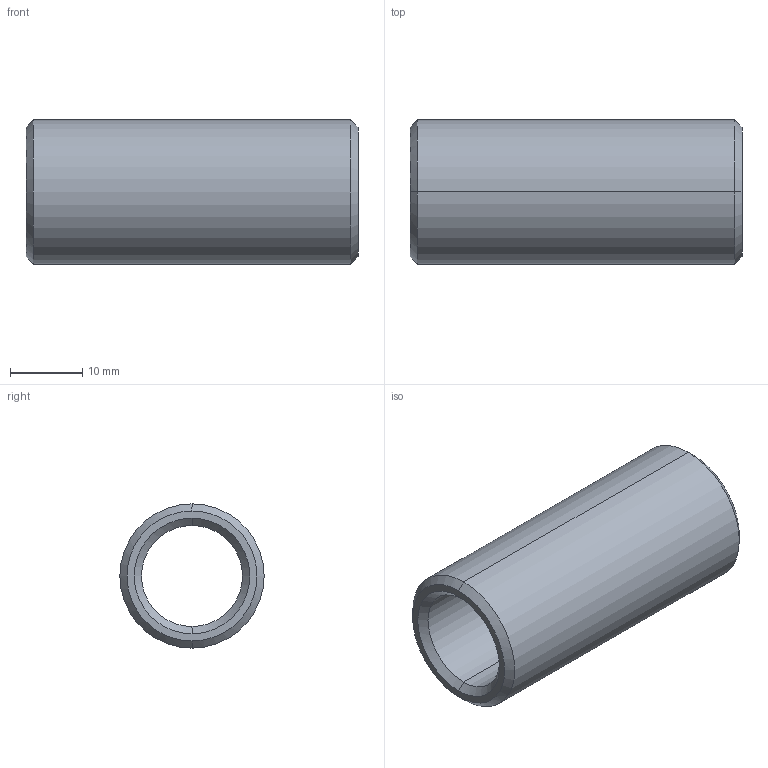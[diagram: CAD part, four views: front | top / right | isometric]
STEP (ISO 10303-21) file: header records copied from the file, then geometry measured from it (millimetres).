
FILE_DESCRIPTION(('CATIA V5 STEP Exchange'),'2;1');
FILE_NAME('C:\Users\Utente\Desktop\IO LAVORO\3D X SITO CF\X SITO\PLASTICA\352\352-14X46.stp','2021-04-10T09:14:04+00:00',('none'),('none'),'CATIA Version 5 Release 20 GA (IN-10)','CATIA V5 STEP AP203','none');
FILE_SCHEMA(('CONFIG_CONTROL_DESIGN'));
Length unit declared in the file: millimetre
Products named in the file (1): 352-14X46
Bounding box: 46 x 20 x 20 mm (x, y, z)
Volume: 7276.7 mm3; surface area: 5114.8 mm2
Topology: 1 solids, 1 shells, 14 faces, 44 edges, 32 vertices
Faces by surface type: cone 6, cylinder 4, plane 2, torus 2
Entity records: 634 total; most frequent: CARTESIAN_POINT 203, ORIENTED_EDGE 88, DIRECTION 64, EDGE_CURVE 44, AXIS2_PLACEMENT_3D 41, VERTEX_POINT 32, CIRCLE 26, EDGE_LOOP 16
